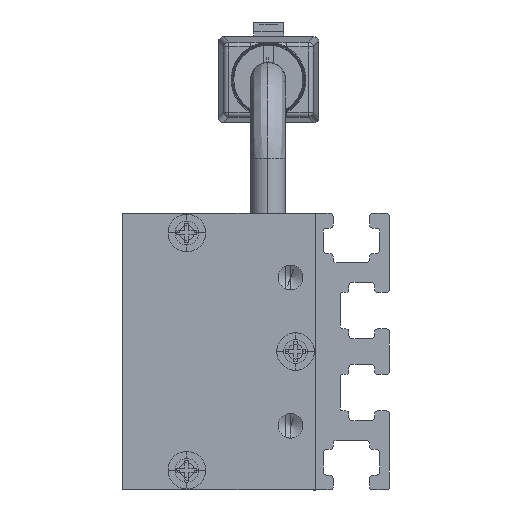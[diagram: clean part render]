
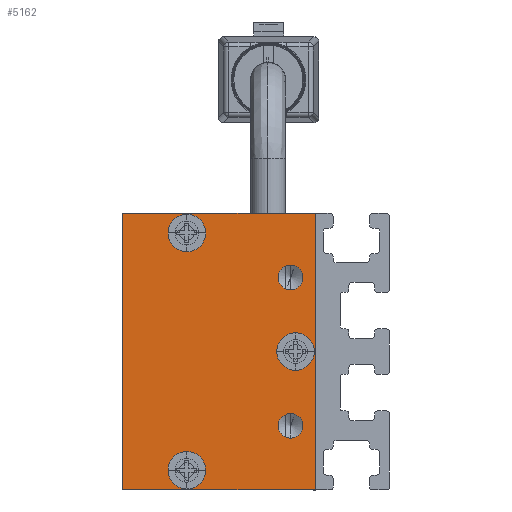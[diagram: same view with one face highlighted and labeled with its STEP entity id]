
A CAD part, left-side view. The second image highlights one B-rep face of the part: STEP entity #5162.
In plain terms, the highlighted planar face has unit normal (-1, 0, 0) as drawn and (0, 0, -1) by its records, which use the part's own axes.
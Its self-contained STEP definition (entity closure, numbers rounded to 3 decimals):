
#195 = DIRECTION ( 'NONE',  ( -1., 0., 0. ) ) ;
#225 = EDGE_CURVE ( 'NONE', #4107, #3866, #9694, .T. ) ;
#403 = CARTESIAN_POINT ( 'NONE',  ( 1.9, 2., -2.5 ) ) ;
#422 = VECTOR ( 'NONE', #7426, 1000. ) ;
#424 = DIRECTION ( 'NONE',  ( 0., -1., 0. ) ) ;
#529 = VERTEX_POINT ( 'NONE', #12578 ) ;
#592 = DIRECTION ( 'NONE',  ( 0., 0., -1. ) ) ;
#677 = VERTEX_POINT ( 'NONE', #5418 ) ;
#763 = ORIENTED_EDGE ( 'NONE', *, *, #10262, .F. ) ;
#795 = FACE_BOUND ( 'NONE', #919, .T. ) ;
#919 = EDGE_LOOP ( 'NONE', ( #12802, #1185 ) ) ;
#969 = EDGE_LOOP ( 'NONE', ( #4872, #13734 ) ) ;
#1029 = CARTESIAN_POINT ( 'NONE',  ( -14., 19.5, -2.5 ) ) ;
#1104 = ORIENTED_EDGE ( 'NONE', *, *, #10609, .F. ) ;
#1148 = DIRECTION ( 'NONE',  ( 0., 0., -1. ) ) ;
#1185 = ORIENTED_EDGE ( 'NONE', *, *, #1800, .F. ) ;
#1245 = EDGE_CURVE ( 'NONE', #677, #10028, #13761, .T. ) ;
#1254 = DIRECTION ( 'NONE',  ( 0., 0., -1. ) ) ;
#1298 = CIRCLE ( 'NONE', #11270, 1.25 ) ;
#1746 = CARTESIAN_POINT ( 'NONE',  ( 7.5, 2.5, -2.5 ) ) ;
#1800 = EDGE_CURVE ( 'NONE', #8269, #6554, #13096, .T. ) ;
#1862 = DIRECTION ( 'NONE',  ( -1., 0., 0. ) ) ;
#1940 = FACE_BOUND ( 'NONE', #969, .T. ) ;
#2301 = EDGE_CURVE ( 'NONE', #3866, #7630, #13272, .T. ) ;
#2481 = DIRECTION ( 'NONE',  ( 1., 0., 0. ) ) ;
#2507 = DIRECTION ( 'NONE',  ( -1., 0., 0. ) ) ;
#2613 = CARTESIAN_POINT ( 'NONE',  ( 14., 0., -2.5 ) ) ;
#2627 = VERTEX_POINT ( 'NONE', #403 ) ;
#2846 = DIRECTION ( 'NONE',  ( 0., 0., -1. ) ) ;
#3158 = AXIS2_PLACEMENT_3D ( 'NONE', #10309, #592, #4907 ) ;
#3172 = CARTESIAN_POINT ( 'NONE',  ( -14., 19.5, -2.5 ) ) ;
#3237 = AXIS2_PLACEMENT_3D ( 'NONE', #12783, #2846, #6335 ) ;
#3292 = EDGE_LOOP ( 'NONE', ( #1104, #13827 ) ) ;
#3347 = CARTESIAN_POINT ( 'NONE',  ( 14., 0., -2.5 ) ) ;
#3497 = ORIENTED_EDGE ( 'NONE', *, *, #1245, .F. ) ;
#3607 = CARTESIAN_POINT ( 'NONE',  ( -7.5, 2.5, -2.5 ) ) ;
#3654 = ORIENTED_EDGE ( 'NONE', *, *, #225, .F. ) ;
#3754 = DIRECTION ( 'NONE',  ( -1., 0., 0. ) ) ;
#3859 = DIRECTION ( 'NONE',  ( 0., 1., 0. ) ) ;
#3866 = VERTEX_POINT ( 'NONE', #3172 ) ;
#4107 = VERTEX_POINT ( 'NONE', #8910 ) ;
#4122 = FACE_BOUND ( 'NONE', #10421, .T. ) ;
#4394 = EDGE_CURVE ( 'NONE', #529, #2627, #10395, .T. ) ;
#4473 = DIRECTION ( 'NONE',  ( 0., 0., -1. ) ) ;
#4872 = ORIENTED_EDGE ( 'NONE', *, *, #4394, .F. ) ;
#4907 = DIRECTION ( 'NONE',  ( -1., 0., 0. ) ) ;
#4998 = DIRECTION ( 'NONE',  ( -1., 0., 0. ) ) ;
#5162 = ADVANCED_FACE ( 'NONE', ( #6191, #12567, #1940, #795, #4122, #8460 ), #6260, .T. ) ;
#5333 = VERTEX_POINT ( 'NONE', #3347 ) ;
#5418 = CARTESIAN_POINT ( 'NONE',  ( -6.25, 2.5, -2.5 ) ) ;
#5549 = ORIENTED_EDGE ( 'NONE', *, *, #12035, .F. ) ;
#5699 = CARTESIAN_POINT ( 'NONE',  ( -7.5, 2.5, -2.5 ) ) ;
#5957 = DIRECTION ( 'NONE',  ( 0., 0., -1. ) ) ;
#6057 = AXIS2_PLACEMENT_3D ( 'NONE', #3607, #1148, #9990 ) ;
#6162 = CARTESIAN_POINT ( 'NONE',  ( -8.75, 2.5, -2.5 ) ) ;
#6191 = FACE_BOUND ( 'NONE', #3292, .T. ) ;
#6260 = PLANE ( 'NONE',  #3237 ) ;
#6335 = DIRECTION ( 'NONE',  ( -1., 0., 0. ) ) ;
#6355 = EDGE_CURVE ( 'NONE', #6554, #8269, #13027, .T. ) ;
#6405 = CARTESIAN_POINT ( 'NONE',  ( 8.75, 2.5, -2.5 ) ) ;
#6554 = VERTEX_POINT ( 'NONE', #8482 ) ;
#6639 = DIRECTION ( 'NONE',  ( 0., 0., -1. ) ) ;
#6652 = VERTEX_POINT ( 'NONE', #8324 ) ;
#6914 = EDGE_CURVE ( 'NONE', #6943, #6652, #7216, .T. ) ;
#6943 = VERTEX_POINT ( 'NONE', #10964 ) ;
#6952 = CARTESIAN_POINT ( 'NONE',  ( 12., 13., -2.5 ) ) ;
#7110 = DIRECTION ( 'NONE',  ( -1., 0., 0. ) ) ;
#7179 = CARTESIAN_POINT ( 'NONE',  ( 0., 2., -2.5 ) ) ;
#7216 = CIRCLE ( 'NONE', #13785, 1.9 ) ;
#7259 = DIRECTION ( 'NONE',  ( 0., 0., -1. ) ) ;
#7426 = DIRECTION ( 'NONE',  ( -1., 0., 0. ) ) ;
#7451 = ORIENTED_EDGE ( 'NONE', *, *, #2301, .F. ) ;
#7475 = VECTOR ( 'NONE', #3859, 1000. ) ;
#7493 = AXIS2_PLACEMENT_3D ( 'NONE', #7179, #7259, #1862 ) ;
#7630 = VERTEX_POINT ( 'NONE', #8395 ) ;
#7826 = ORIENTED_EDGE ( 'NONE', *, *, #7930, .F. ) ;
#7908 = DIRECTION ( 'NONE',  ( -1., 0., 0. ) ) ;
#7917 = AXIS2_PLACEMENT_3D ( 'NONE', #11081, #4473, #2507 ) ;
#7930 = EDGE_CURVE ( 'NONE', #10028, #677, #1298, .T. ) ;
#7938 = CIRCLE ( 'NONE', #9749, 1.9 ) ;
#8040 = EDGE_LOOP ( 'NONE', ( #763, #5549, #7451, #3654 ) ) ;
#8269 = VERTEX_POINT ( 'NONE', #6405 ) ;
#8324 = CARTESIAN_POINT ( 'NONE',  ( -13.9, 13., -2.5 ) ) ;
#8395 = CARTESIAN_POINT ( 'NONE',  ( -14., 0., -2.5 ) ) ;
#8417 = DIRECTION ( 'NONE',  ( 0., 0., -1. ) ) ;
#8460 = FACE_OUTER_BOUND ( 'NONE', #8040, .T. ) ;
#8482 = CARTESIAN_POINT ( 'NONE',  ( 6.25, 2.5, -2.5 ) ) ;
#8893 = ORIENTED_EDGE ( 'NONE', *, *, #6914, .F. ) ;
#8910 = CARTESIAN_POINT ( 'NONE',  ( 14., 19.5, -2.5 ) ) ;
#9146 = CARTESIAN_POINT ( 'NONE',  ( 12., 13., -2.5 ) ) ;
#9212 = DIRECTION ( 'NONE',  ( 0., 0., -1. ) ) ;
#9287 = CARTESIAN_POINT ( 'NONE',  ( 7.5, 2.5, -2.5 ) ) ;
#9694 = LINE ( 'NONE', #1029, #422 ) ;
#9749 = AXIS2_PLACEMENT_3D ( 'NONE', #9146, #13490, #3754 ) ;
#9990 = DIRECTION ( 'NONE',  ( -1., 0., 0. ) ) ;
#10007 = VECTOR ( 'NONE', #2481, 1000. ) ;
#10028 = VERTEX_POINT ( 'NONE', #6162 ) ;
#10069 = DIRECTION ( 'NONE',  ( -1., 0., 0. ) ) ;
#10210 = CARTESIAN_POINT ( 'NONE',  ( -14., 0., -2.5 ) ) ;
#10253 = EDGE_CURVE ( 'NONE', #6652, #6943, #11785, .T. ) ;
#10262 = EDGE_CURVE ( 'NONE', #5333, #4107, #10456, .T. ) ;
#10309 = CARTESIAN_POINT ( 'NONE',  ( -12., 13., -2.5 ) ) ;
#10395 = CIRCLE ( 'NONE', #7917, 1.9 ) ;
#10421 = EDGE_LOOP ( 'NONE', ( #7826, #3497 ) ) ;
#10456 = LINE ( 'NONE', #13594, #7475 ) ;
#10609 = EDGE_CURVE ( 'NONE', #13753, #11343, #7938, .T. ) ;
#10816 = CARTESIAN_POINT ( 'NONE',  ( 10.1, 13., -2.5 ) ) ;
#10817 = AXIS2_PLACEMENT_3D ( 'NONE', #9287, #9212, #7110 ) ;
#10839 = EDGE_CURVE ( 'NONE', #2627, #529, #13613, .T. ) ;
#10964 = CARTESIAN_POINT ( 'NONE',  ( -10.1, 13., -2.5 ) ) ;
#11081 = CARTESIAN_POINT ( 'NONE',  ( 0., 2., -2.5 ) ) ;
#11173 = AXIS2_PLACEMENT_3D ( 'NONE', #6952, #5957, #10069 ) ;
#11270 = AXIS2_PLACEMENT_3D ( 'NONE', #5699, #6639, #7908 ) ;
#11343 = VERTEX_POINT ( 'NONE', #13172 ) ;
#11693 = ORIENTED_EDGE ( 'NONE', *, *, #10253, .F. ) ;
#11785 = CIRCLE ( 'NONE', #3158, 1.9 ) ;
#12035 = EDGE_CURVE ( 'NONE', #7630, #5333, #12121, .T. ) ;
#12121 = LINE ( 'NONE', #2613, #10007 ) ;
#12245 = CARTESIAN_POINT ( 'NONE',  ( -12., 13., -2.5 ) ) ;
#12567 = FACE_BOUND ( 'NONE', #13145, .T. ) ;
#12578 = CARTESIAN_POINT ( 'NONE',  ( -1.9, 2., -2.5 ) ) ;
#12783 = CARTESIAN_POINT ( 'NONE',  ( 0., 0., -2.5 ) ) ;
#12802 = ORIENTED_EDGE ( 'NONE', *, *, #6355, .F. ) ;
#13027 = CIRCLE ( 'NONE', #13253, 1.25 ) ;
#13096 = CIRCLE ( 'NONE', #10817, 1.25 ) ;
#13145 = EDGE_LOOP ( 'NONE', ( #11693, #8893 ) ) ;
#13172 = CARTESIAN_POINT ( 'NONE',  ( 13.9, 13., -2.5 ) ) ;
#13253 = AXIS2_PLACEMENT_3D ( 'NONE', #1746, #8417, #4998 ) ;
#13272 = LINE ( 'NONE', #10210, #13555 ) ;
#13277 = EDGE_CURVE ( 'NONE', #11343, #13753, #13673, .T. ) ;
#13490 = DIRECTION ( 'NONE',  ( 0., 0., -1. ) ) ;
#13555 = VECTOR ( 'NONE', #424, 1000. ) ;
#13594 = CARTESIAN_POINT ( 'NONE',  ( 14., 19.5, -2.5 ) ) ;
#13613 = CIRCLE ( 'NONE', #7493, 1.9 ) ;
#13673 = CIRCLE ( 'NONE', #11173, 1.9 ) ;
#13734 = ORIENTED_EDGE ( 'NONE', *, *, #10839, .F. ) ;
#13753 = VERTEX_POINT ( 'NONE', #10816 ) ;
#13761 = CIRCLE ( 'NONE', #6057, 1.25 ) ;
#13785 = AXIS2_PLACEMENT_3D ( 'NONE', #12245, #1254, #195 ) ;
#13827 = ORIENTED_EDGE ( 'NONE', *, *, #13277, .F. ) ;
